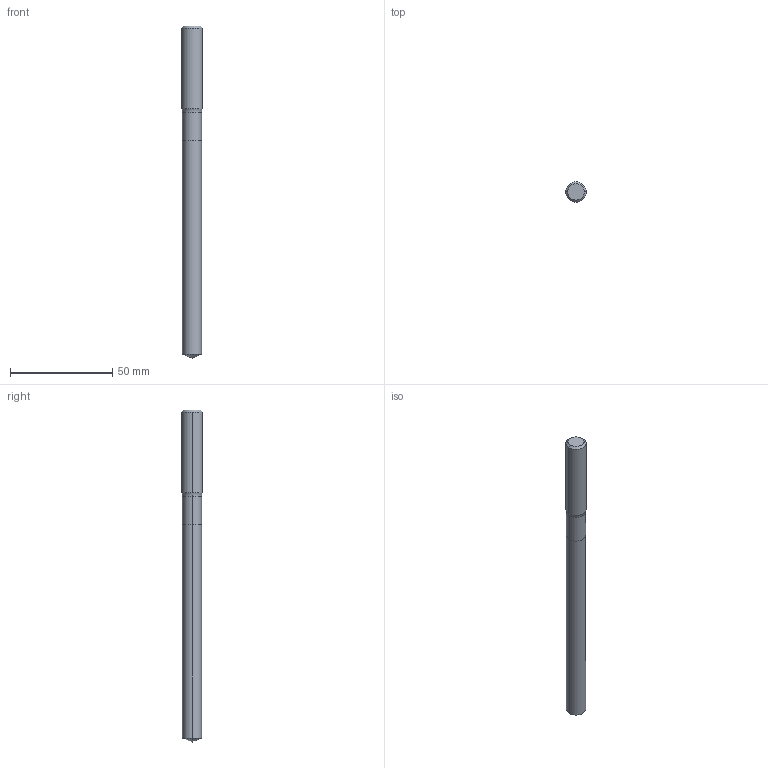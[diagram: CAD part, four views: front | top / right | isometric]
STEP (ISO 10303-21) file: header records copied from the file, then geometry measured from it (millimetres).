
FILE_DESCRIPTION (( 'STEP AP214' ), '1' );
FILE_NAME ('710.094.00_3D-model.step', '2022-02-22T16:58:08', ( '' ), ( '' ), 'SwSTEP 2.0', 'SolidWorks 2020', '' );
FILE_SCHEMA (( 'AUTOMOTIVE_DESIGN' ));
Length unit declared in the file: millimetre
Products named in the file (3): CUT-3D^Baugr43; 710.094.00_3D-model; NOCUT-3D^Baugr43
Assembly tree (2 placements, depth 2):
  710.094.00_3D-model
    CUT-3D^Baugr43
    NOCUT-3D^Baugr43
Bounding box: 10 x 10 x 162 mm (x, y, z)
Volume: 11512.3 mm3; surface area: 5077.7 mm2
Topology: 2 solids, 2 shells, 15 faces, 28 edges, 15 vertices
Faces by surface type: cylinder 6, cone 4, plane 3, torus 2
Entity records: 482 total; most frequent: DIRECTION 88, CARTESIAN_POINT 64, ORIENTED_EDGE 52, AXIS2_PLACEMENT_3D 39, EDGE_CURVE 26, CIRCLE 16, VERTEX_POINT 15, EDGE_LOOP 15
